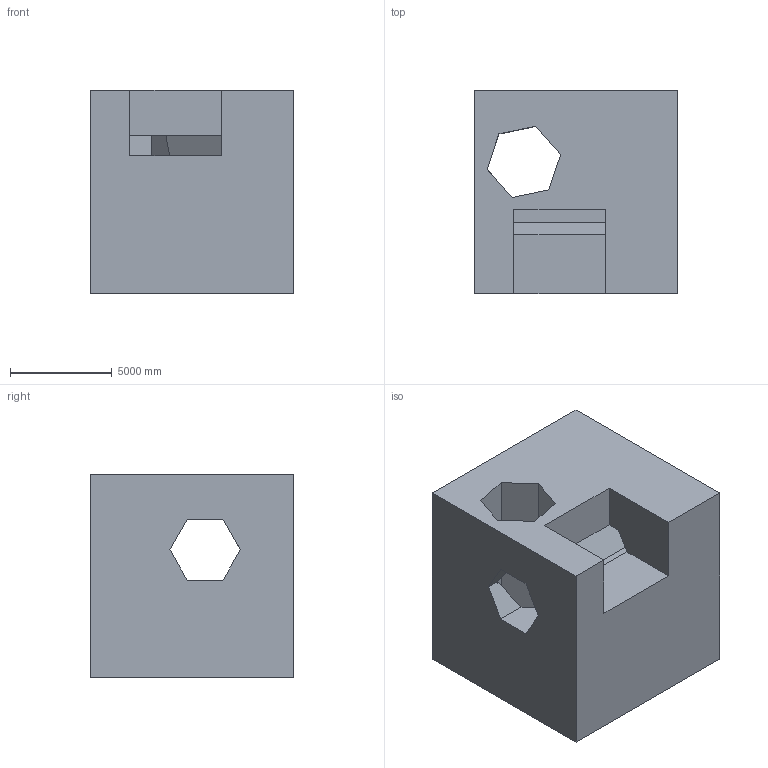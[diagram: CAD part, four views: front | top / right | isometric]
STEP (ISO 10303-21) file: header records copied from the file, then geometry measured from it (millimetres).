
FILE_DESCRIPTION (( 'STEP AP203' ), '1' );
FILE_NAME ('359.STEP', '2022-07-28T14:28:42', ( 'user' ), ( '' ), 'SwSTEP 2.0', 'SolidWorks 2021', '' );
FILE_SCHEMA (( 'CONFIG_CONTROL_DESIGN' ));
Length unit declared in the file: centimetre
Products named in the file (1): 359
Bounding box: 10000 x 10000 x 10000 mm (x, y, z)
Volume: 729404804461.7 mm3; surface area: 797406357.9 mm2
Topology: 1 solids, 1 shells, 29 faces, 93 edges, 62 vertices
Faces by surface type: plane 29
Entity records: 1100 total; most frequent: ORIENTED_EDGE 186, CARTESIAN_POINT 185, DIRECTION 153, VECTOR 93, EDGE_CURVE 93, LINE 93, VERTEX_POINT 62, EDGE_LOOP 33
